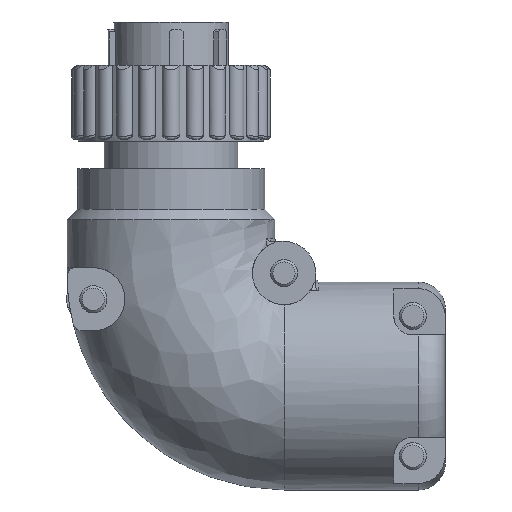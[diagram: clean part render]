
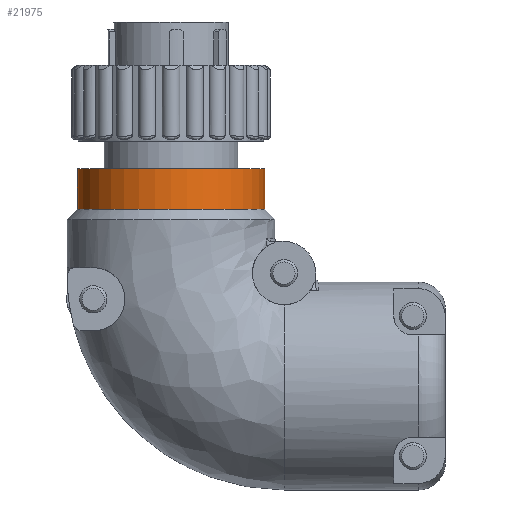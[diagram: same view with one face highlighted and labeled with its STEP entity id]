
A CAD part, left-side view. The second image highlights one B-rep face of the part: STEP entity #21975.
In plain terms, the highlighted cylindrical face has radius 10.35 mm (diameter 20.7 mm), a full revolution.
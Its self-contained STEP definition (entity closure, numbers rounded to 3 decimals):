
#4005 = CARTESIAN_POINT ( 'NONE',  ( 0., 0., -20.73 ) ) ;
#4058 = CARTESIAN_POINT ( 'NONE',  ( -10.35, 0., -20.73 ) ) ;
#4743 = DIRECTION ( 'NONE',  ( -1., 0., 0. ) ) ;
#7361 = ORIENTED_EDGE ( 'NONE', *, *, #25424, .F. ) ;
#7592 = EDGE_LOOP ( 'NONE', ( #7361 ) ) ;
#7676 = CARTESIAN_POINT ( 'NONE',  ( -10.35, 0., -16.23 ) ) ;
#7932 = DIRECTION ( 'NONE',  ( -1., 0., 0. ) ) ;
#8214 = CARTESIAN_POINT ( 'NONE',  ( 0., 0., -20.73 ) ) ;
#12501 = AXIS2_PLACEMENT_3D ( 'NONE', #8214, #28283, #4743 ) ;
#17291 = CYLINDRICAL_SURFACE ( 'NONE', #22195, 10.35 ) ;
#17490 = DIRECTION ( 'NONE',  ( 0., 0., -1. ) ) ;
#21975 = ADVANCED_FACE ( 'NONE', ( #30232, #38007 ), #17291, .T. ) ;
#22195 = AXIS2_PLACEMENT_3D ( 'NONE', #4005, #27112, #23932 ) ;
#22559 = EDGE_LOOP ( 'NONE', ( #23406 ) ) ;
#22719 = CIRCLE ( 'NONE', #12501, 10.35 ) ;
#23406 = ORIENTED_EDGE ( 'NONE', *, *, #28898, .T. ) ;
#23932 = DIRECTION ( 'NONE',  ( 1., 0., 0. ) ) ;
#25424 = EDGE_CURVE ( 'NONE', #37680, #37680, #22719, .T. ) ;
#26906 = AXIS2_PLACEMENT_3D ( 'NONE', #40802, #17490, #7932 ) ;
#27112 = DIRECTION ( 'NONE',  ( 0., 0., 1. ) ) ;
#28283 = DIRECTION ( 'NONE',  ( 0., 0., -1. ) ) ;
#28898 = EDGE_CURVE ( 'NONE', #29403, #29403, #38609, .T. ) ;
#29403 = VERTEX_POINT ( 'NONE', #7676 ) ;
#30232 = FACE_OUTER_BOUND ( 'NONE', #7592, .T. ) ;
#37680 = VERTEX_POINT ( 'NONE', #4058 ) ;
#38007 = FACE_OUTER_BOUND ( 'NONE', #22559, .T. ) ;
#38609 = CIRCLE ( 'NONE', #26906, 10.35 ) ;
#40802 = CARTESIAN_POINT ( 'NONE',  ( 0., 0., -16.23 ) ) ;
